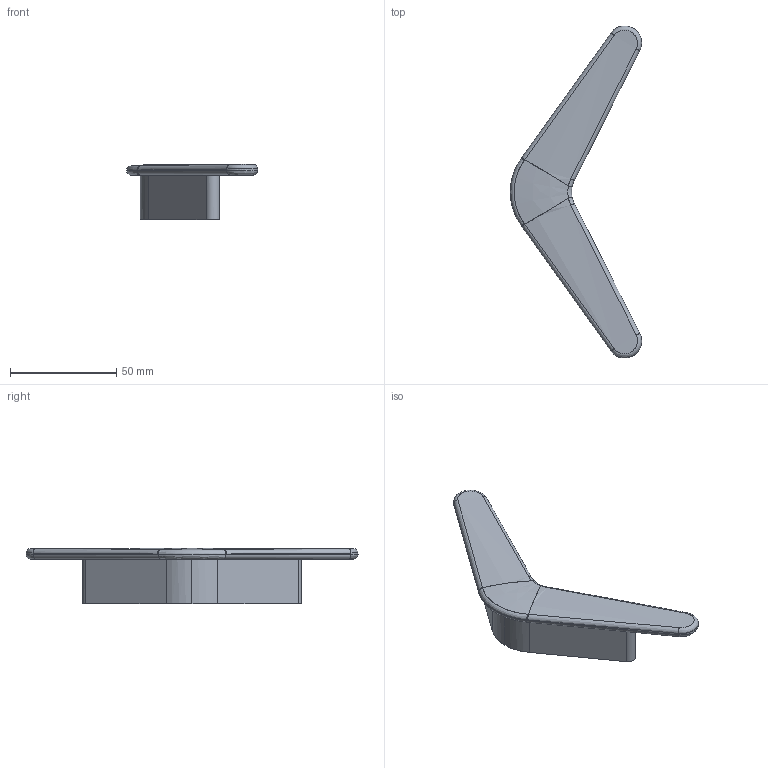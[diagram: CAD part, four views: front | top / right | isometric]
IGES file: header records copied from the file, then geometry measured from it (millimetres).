
Start section: C
Global section: file name: 8180-157.igs; native system: By Siemens PLM Incorporated; preprocessor: XPlus GENERIC/IGES 16.0.42; author: Author; organization: Title; date: 20231119.100156; units: millimetre
Bounding box: 61.78 x 156.29 x 26 mm (x, y, z)
Surface area: 21030.6 mm2 (no closed solid volume)
Topology: 0 solids, 0 shells, 102 faces, 512 edges, 512 vertices
Faces by surface type: bspline 102
